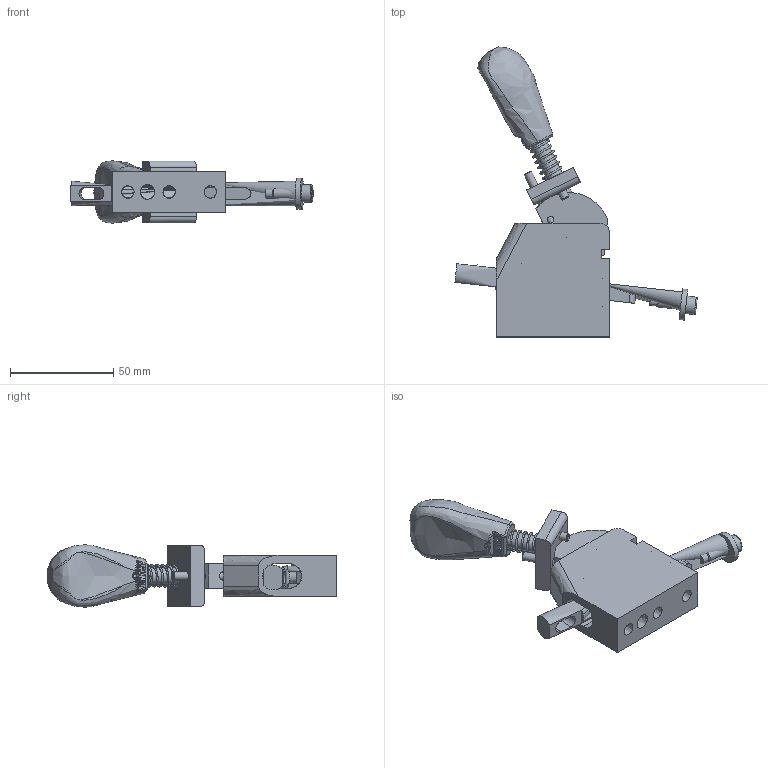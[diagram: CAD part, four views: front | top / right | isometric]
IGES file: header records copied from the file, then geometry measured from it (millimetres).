
Global section: file name: SUD-34ST-L-UNCLAMP; native system: Autodesk Inventor 2019; preprocessor: unknown; author: 桶田 勝弘,,  11,0; organization: 20171006.082016; date: 20240514.172416; units: millimetre
Bounding box: 117.36 x 140.51 x 30.18 mm (x, y, z)
Volume: 80373.5 mm3; surface area: 35114.7 mm2
Topology: 13 solids, 13 shells, 257 faces, 702 edges, 470 vertices
Faces by surface type: bspline 257
